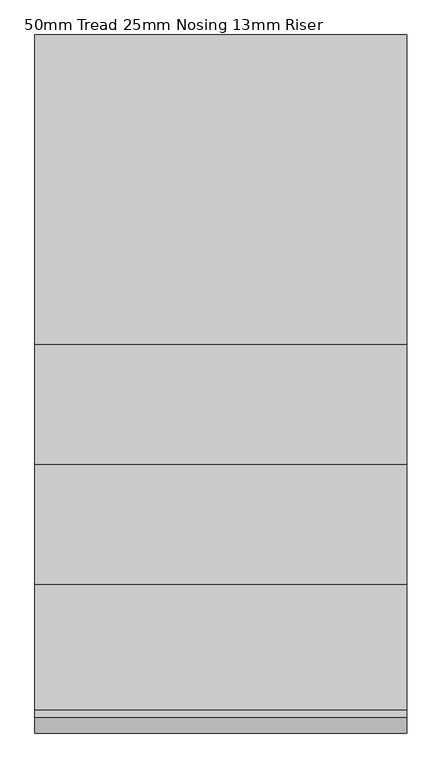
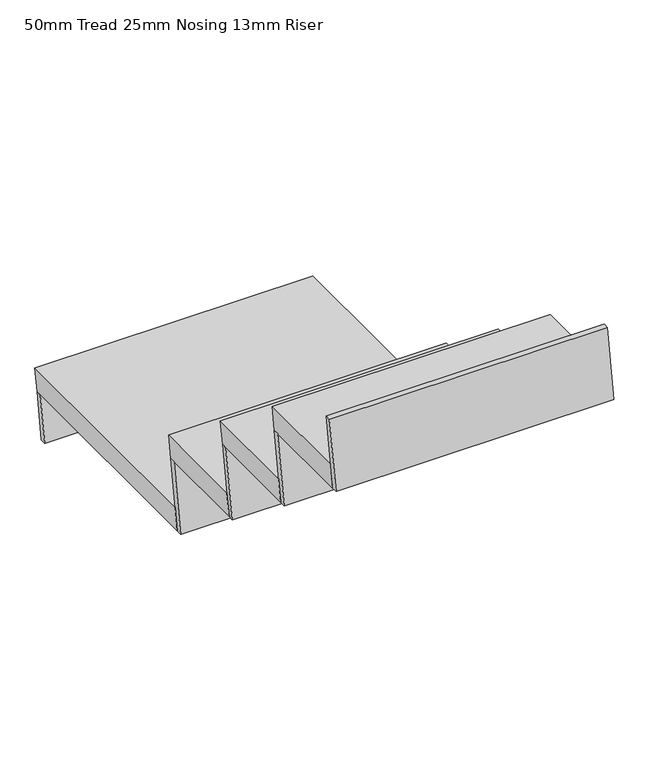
"""IFC4 building model written with IfcOpenShell, lengths in millimetres: stair flight geometry, 50mm Tread 25mm Nosing 13mm Riser."""

from ifc_helpers import new_model, si_unit, origin, place, context, project, spatial, faceted_brep, source, transform, mapped, element, save


def stair_flight_50mm_tread_25mm_nosing_13mm_riser_f689957c(model_context):
    return source(origin(), model_context, "Body", "Brep", [
        faceted_brep([(-6813.55, 15183.25, -2590.8), (-6813.55, 15175.0479003, -2640.8), (-6203.95, 15175.0479003, -2640.8), (-6203.95, 15183.25, -2590.8), (-6203.95, 15208.25, -2590.8), (-6203.95, 15716.25, -2590.8), (-6813.55, 15716.25, -2590.8), (-6813.55, 15708.0479003, -2640.8), (-6203.95, 15708.0479003, -2640.8), (-6203.95, 15208.25, -2640.8)], [[[0, 1, 2, 3]], [[3, 4, 5, 6, 0]], [[2, 1, 7, 8, 9]], [[4, 3, 2, 9]], [[0, 6, 7, 1]], [[6, 5, 8, 7]], [[5, 4, 9, 8]]]),
        faceted_brep([(-6813.55, 15708.0479003, -2640.8), (-6813.55, 15691.25, -2743.2), (-6813.55, 15678.5829304, -2743.2), (-6813.55, 15695.3808307, -2640.8), (-6203.95, 15708.0479003, -2640.8), (-6203.95, 15695.3808307, -2640.8), (-6203.95, 15678.5829304, -2743.2), (-6203.95, 15691.25, -2743.2)], [[[0, 1, 2, 3]], [[4, 5, 6, 7]], [[1, 0, 4, 7]], [[2, 1, 7, 6]], [[3, 2, 6, 5]], [[0, 3, 5, 4]]]),
        faceted_brep([(-6813.55, 15200.0479003, -2488.4), (-6813.55, 15175.0479003, -2640.8), (-6813.55, 15162.3808307, -2640.8), (-6813.55, 15187.3808307, -2488.4), (-6203.95, 15200.0479003, -2488.4), (-6203.95, 15187.3808307, -2488.4), (-6203.95, 15162.3808307, -2640.8), (-6203.95, 15175.0479003, -2640.8)], [[[0, 1, 2, 3]], [[4, 5, 6, 7]], [[1, 0, 4, 7]], [[2, 1, 7, 6]], [[3, 2, 6, 5]], [[0, 3, 5, 4]]]),
        faceted_brep([(-6203.95, 14986.4, -2438.4), (-6203.95, 15208.25, -2438.4), (-6813.55, 15208.25, -2438.4), (-6813.55, 14986.4, -2438.4), (-6203.95, 14978.1979003, -2488.4), (-6813.55, 14978.1979003, -2488.4), (-6813.55, 15200.0479003, -2488.4), (-6203.95, 15200.0479003, -2488.4)], [[[0, 1, 2, 3]], [[4, 5, 6, 7]], [[1, 0, 4, 7]], [[3, 2, 6, 5]], [[3, 5, 4, 0]], [[2, 1, 7, 6]]]),
        faceted_brep([(-6813.55, 15003.1979003, -2336.0), (-6813.55, 14978.1979003, -2488.4), (-6813.55, 14965.5308307, -2488.4), (-6813.55, 14990.5308307, -2336.0), (-6203.95, 15003.1979003, -2336.0), (-6203.95, 14990.5308307, -2336.0), (-6203.95, 14965.5308307, -2488.4), (-6203.95, 14978.1979003, -2488.4)], [[[0, 1, 2, 3]], [[4, 5, 6, 7]], [[1, 0, 4, 7]], [[2, 1, 7, 6]], [[3, 2, 6, 5]], [[0, 3, 5, 4]]]),
        faceted_brep([(-6203.95, 14789.55, -2286.0), (-6203.95, 15011.4, -2286.0), (-6813.55, 15011.4, -2286.0), (-6813.55, 14789.55, -2286.0), (-6203.95, 14781.3479003, -2336.0), (-6813.55, 14781.3479003, -2336.0), (-6813.55, 15003.1979003, -2336.0), (-6203.95, 15003.1979003, -2336.0)], [[[0, 1, 2, 3]], [[4, 5, 6, 7]], [[1, 0, 4, 7]], [[3, 2, 6, 5]], [[3, 5, 4, 0]], [[2, 1, 7, 6]]]),
        faceted_brep([(-6813.55, 14806.3479003, -2183.6), (-6813.55, 14781.3479003, -2336.0), (-6813.55, 14768.6808307, -2336.0), (-6813.55, 14793.6808307, -2183.6), (-6203.95, 14806.3479003, -2183.6), (-6203.95, 14793.6808307, -2183.6), (-6203.95, 14768.6808307, -2336.0), (-6203.95, 14781.3479003, -2336.0)], [[[0, 1, 2, 3]], [[4, 5, 6, 7]], [[1, 0, 4, 7]], [[2, 1, 7, 6]], [[3, 2, 6, 5]], [[0, 3, 5, 4]]]),
        faceted_brep([(-6813.55, 14609.4979003, -2031.2), (-6813.55, 14584.4979003, -2183.6), (-6813.55, 14571.8308307, -2183.6), (-6813.55, 14596.8308307, -2031.2), (-6203.95, 14609.4979003, -2031.2), (-6203.95, 14596.8308307, -2031.2), (-6203.95, 14571.8308307, -2183.6), (-6203.95, 14584.4979003, -2183.6)], [[[0, 1, 2, 3]], [[4, 5, 6, 7]], [[1, 0, 4, 7]], [[2, 1, 7, 6]], [[3, 2, 6, 5]], [[0, 3, 5, 4]]]),
        faceted_brep([(-6203.95, 14592.7, -2133.6), (-6203.95, 14814.55, -2133.6), (-6813.55, 14814.55, -2133.6), (-6813.55, 14592.7, -2133.6), (-6203.95, 14584.4979003, -2183.6), (-6813.55, 14584.4979003, -2183.6), (-6813.55, 14806.3479003, -2183.6), (-6203.95, 14806.3479003, -2183.6)], [[[0, 1, 2, 3]], [[4, 5, 6, 7]], [[1, 0, 4, 7]], [[3, 2, 6, 5]], [[3, 5, 4, 0]], [[2, 1, 7, 6]]]),
    ])


if __name__ == "__main__":
    model = new_model("IFC4")
    model_context = context("Model", 3, world=origin())
    ifc_project = project(units=[si_unit("LENGTHUNIT", "METRE", prefix="MILLI")], contexts=[model_context])
    site = spatial("IfcSite", under=ifc_project)
    building = spatial("IfcBuilding", under=site)
    placement = place(None, origin())
    stair_flight_50mm_tread_25mm_nosing_13mm_riser_shape = stair_flight_50mm_tread_25mm_nosing_13mm_riser_f689957c(model_context)
    element("IfcStairFlight", 1, ObjectType="50mm Tread 25mm Nosing 13mm Riser", at=placement, inside=building, context=model_context, shape_type="MappedRepresentation", body=[
        mapped(stair_flight_50mm_tread_25mm_nosing_13mm_riser_shape, transform((0.0, 0.0, 0.0), x_axis=(1.0, 0.0, 0.0), y_axis=(0.0, 1.0, 0.0), z_axis=(0.0, 0.0, 1.0))),
    ])
    save(model, "model.ifc")
